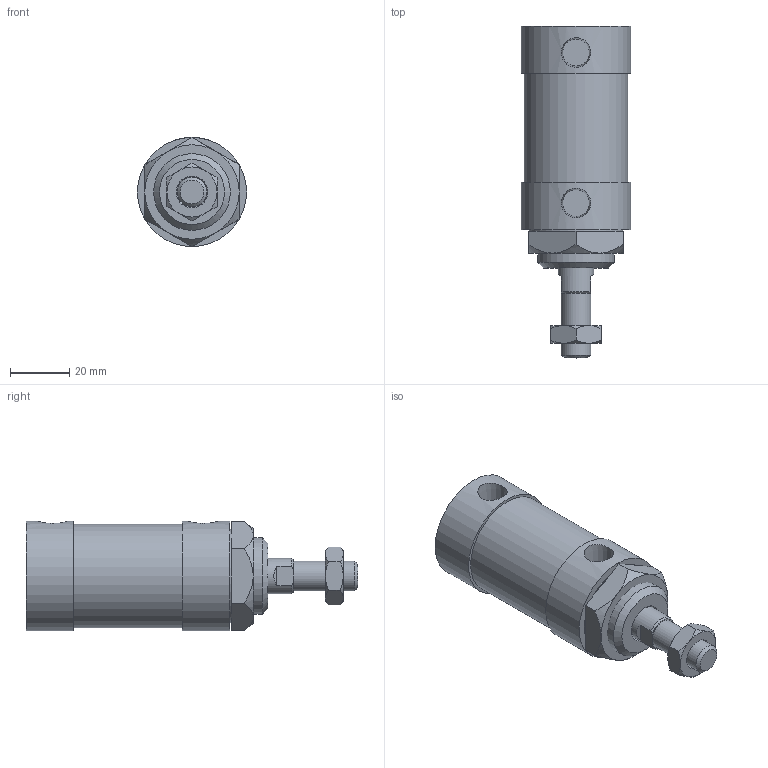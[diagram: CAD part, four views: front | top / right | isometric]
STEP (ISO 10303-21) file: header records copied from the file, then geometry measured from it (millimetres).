
FILE_DESCRIPTION(/* description */ ('Unknown'),/* implementation_level */ '2;1');
FILE_NAME(/* name */ 'WK30-FT',/* time_stamp */ '2026-07-17T16:32:43+08:00',/* author */ ('Unknown'),/* organization */ ('Unknown'),/* preprocessor_version */ 'ST-DEVELOPER v16.7',/* originating_system */ 'DEX',/* authorisation */ $);
FILE_SCHEMA (('CONFIG_CONTROL_DESIGN'));
Length unit declared in the file: millimetre
Products named in the file (7): WK30-FT; WK30_前; WK30_鋁; WK30_､ﾟｶbｬ｡_;m^XD}; M10-1.25P-6_螺; WK30_FT; M26-1.5P-8_螺
Assembly tree (6 placements, depth 2):
  WK30-FT
    WK30_前
    WK30_鋁
    WK30_､ﾟｶbｬ｡_;m^XD}
    M10-1.25P-6_螺
    WK30_FT
    M26-1.5P-8_螺
Bounding box: 37 x 112.5 x 37 mm (x, y, z)
Volume: 83638.2 mm3; surface area: 29185.1 mm2
Topology: 6 solids, 6 shells, 87 faces, 185 edges, 115 vertices
Faces by surface type: plane 42, cone 31, cylinder 14
Full cylindrical faces by diameter (mm): 8.75 x1, 10 x1, 12 x2, 24.5 x1, 26 x1, 29.5 x1, 30 x1, 32 x3, 35 x1, 37 x2
Entity records: 2898 total; most frequent: CARTESIAN_POINT 516, DIRECTION 358, ORIENTED_EDGE 288, AXIS2_PLACEMENT_3D 162, EDGE_CURVE 144, EDGE_LOOP 126, FACE_BOUND 126, VERTEX_POINT 100
